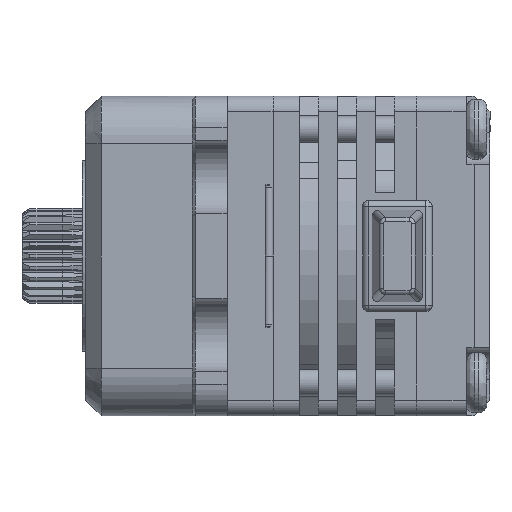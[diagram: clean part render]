
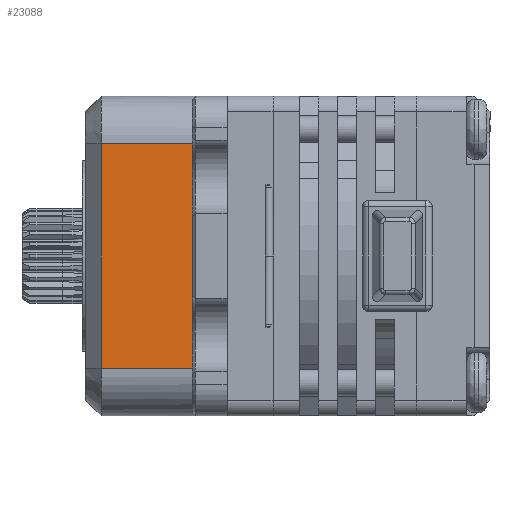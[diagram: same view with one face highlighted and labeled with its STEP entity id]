
A CAD part, left-side view. The second image highlights one B-rep face of the part: STEP entity #23088.
In plain terms, the highlighted planar face has unit normal (-1, 0, 0).
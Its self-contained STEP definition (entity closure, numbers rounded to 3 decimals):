
#2424 = CARTESIAN_POINT ( 'NONE',  ( -9.04, 7.95, -10.1 ) ) ;
#4305 = EDGE_LOOP ( 'NONE', ( #28212, #30617, #24103, #46857 ) ) ;
#5271 = DIRECTION ( 'NONE',  ( 1., 0., 0. ) ) ;
#5685 = VERTEX_POINT ( 'NONE', #48018 ) ;
#6082 = CARTESIAN_POINT ( 'NONE',  ( -9.04, 7.95, -7.1 ) ) ;
#10484 = VERTEX_POINT ( 'NONE', #55696 ) ;
#11417 = LINE ( 'NONE', #47846, #66717 ) ;
#15657 = DIRECTION ( 'NONE',  ( 0., -1., 0. ) ) ;
#21028 = EDGE_CURVE ( 'NONE', #67525, #5685, #11417, .T. ) ;
#22636 = LINE ( 'NONE', #48863, #59630 ) ;
#23088 = ADVANCED_FACE ( 'NONE', ( #53606 ), #25634, .F. ) ;
#23835 = EDGE_CURVE ( 'NONE', #10484, #29234, #22636, .T. ) ;
#24103 = ORIENTED_EDGE ( 'NONE', *, *, #57461, .F. ) ;
#25634 = PLANE ( 'NONE',  #64081 ) ;
#26040 = VECTOR ( 'NONE', #69316, 1000. ) ;
#26839 = DIRECTION ( 'NONE',  ( 0., 1., 0. ) ) ;
#28212 = ORIENTED_EDGE ( 'NONE', *, *, #53449, .F. ) ;
#29234 = VERTEX_POINT ( 'NONE', #6082 ) ;
#30617 = ORIENTED_EDGE ( 'NONE', *, *, #23835, .F. ) ;
#37413 = CARTESIAN_POINT ( 'NONE',  ( -9.04, 2.2, 8.1 ) ) ;
#39505 = DIRECTION ( 'NONE',  ( 0., 0., 1. ) ) ;
#42054 = DIRECTION ( 'NONE',  ( 0., -1., 0. ) ) ;
#43373 = LINE ( 'NONE', #37413, #26040 ) ;
#46857 = ORIENTED_EDGE ( 'NONE', *, *, #21028, .F. ) ;
#46981 = CARTESIAN_POINT ( 'NONE',  ( -9.04, 8.95, -10.1 ) ) ;
#47846 = CARTESIAN_POINT ( 'NONE',  ( -9.04, 8.95, 7.1 ) ) ;
#47948 = VECTOR ( 'NONE', #39505, 1000. ) ;
#48018 = CARTESIAN_POINT ( 'NONE',  ( -9.04, 2.2, 7.1 ) ) ;
#48863 = CARTESIAN_POINT ( 'NONE',  ( -9.04, 8.95, -7.1 ) ) ;
#53449 = EDGE_CURVE ( 'NONE', #29234, #67525, #67220, .T. ) ;
#53606 = FACE_OUTER_BOUND ( 'NONE', #4305, .T. ) ;
#55696 = CARTESIAN_POINT ( 'NONE',  ( -9.04, 2.2, -7.1 ) ) ;
#57461 = EDGE_CURVE ( 'NONE', #5685, #10484, #43373, .T. ) ;
#59630 = VECTOR ( 'NONE', #26839, 1000. ) ;
#62201 = CARTESIAN_POINT ( 'NONE',  ( -9.04, 7.95, 7.1 ) ) ;
#64081 = AXIS2_PLACEMENT_3D ( 'NONE', #46981, #5271, #42054 ) ;
#66717 = VECTOR ( 'NONE', #15657, 1000. ) ;
#67220 = LINE ( 'NONE', #2424, #47948 ) ;
#67525 = VERTEX_POINT ( 'NONE', #62201 ) ;
#69316 = DIRECTION ( 'NONE',  ( 0., 0., -1. ) ) ;
